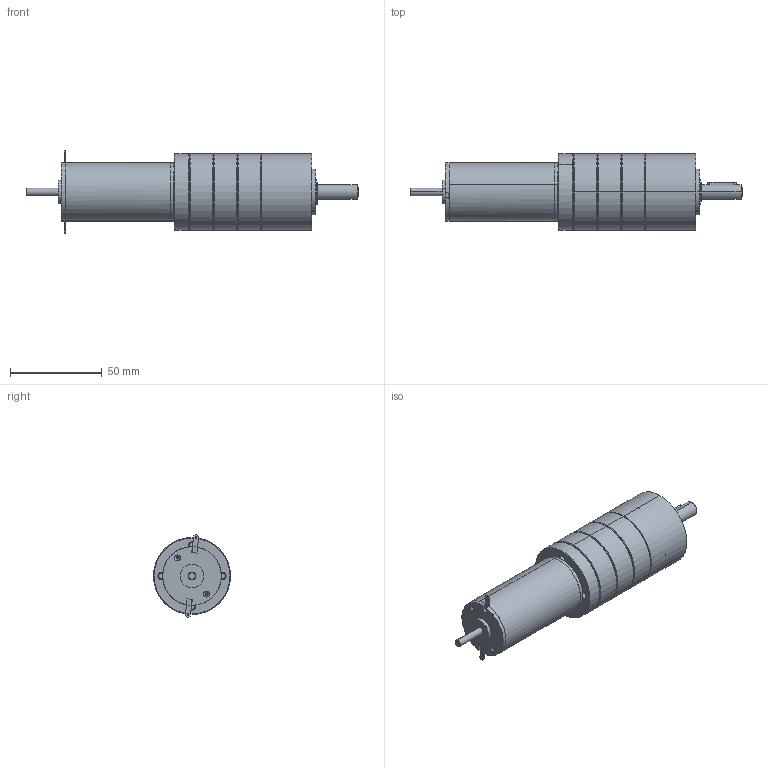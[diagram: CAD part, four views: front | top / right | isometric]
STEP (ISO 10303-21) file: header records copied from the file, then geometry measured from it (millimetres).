
FILE_DESCRIPTION (( 'STEP AP214' ), '1' );
FILE_NAME ('Amax32_+_PM42 -3etages.STEP', '2014-05-19T10:17:30', ( '' ), ( '' ), 'SwSTEP 2.0', 'SolidWorks 2013', '' );
FILE_SCHEMA (( 'AUTOMOTIVE_DESIGN' ));
Length unit declared in the file: millimetre
Products named in the file (16): SCHRAUBE_1241978_10; MOTORRITZEL_Z17_1280117; 8001288_ANLAUFSCHEIBE_1ST_4; MOTORFLANSCH_1254861; P8209_8007589_ZAHNKRANZ_Z46_4; 8007606_DICHTRING_4; 3X3X16_D6885A_5; D471_8X0_8_5; 8001316_ABTRIEB_LK4_KPL_4; 8001305_LAGERBOLZEN_5; VBZ_K7841_ABTRIEB_AF0_5; DIN998_PS_8X14X1_5; D625-608-2RS_4; 8007595_LAGERFLANSCH_4; Amax32_+_PM42 -3etages; AMax32GHP_Part
Assembly tree (27 placements, depth 3):
  Amax32_+_PM42 -3etages
    8007595_LAGERFLANSCH_4
    D625-608-2RS_4  x2
    DIN998_PS_8X14X1_5  x2
    8001316_ABTRIEB_LK4_KPL_4
      VBZ_K7841_ABTRIEB_AF0_5
      8001305_LAGERBOLZEN_5  x3
    D471_8X0_8_5
    3X3X16_D6885A_5
    8007606_DICHTRING_4  x4
    P8209_8007589_ZAHNKRANZ_Z46_4  x3
    MOTORFLANSCH_1254861
    8001288_ANLAUFSCHEIBE_1ST_4
    MOTORRITZEL_Z17_1280117
    SCHRAUBE_1241978_10  x4
    AMax32GHP_Part
Bounding box: 181.1 x 42 x 44.9 mm (x, y, z)
Volume: 85117.3 mm3; surface area: 65620 mm2
Topology: 23 solids, 49 shells, 1309 faces, 3475 edges, 2257 vertices
Faces by surface type: cylinder 647, plane 474, cone 132, bspline 52, torus 4
Entity records: 25460 total; most frequent: CARTESIAN_POINT 5486, DIRECTION 4153, ORIENTED_EDGE 3658, EDGE_CURVE 1857, AXIS2_PLACEMENT_3D 1602, VERTEX_POINT 1211, LINE 949, VECTOR 949
